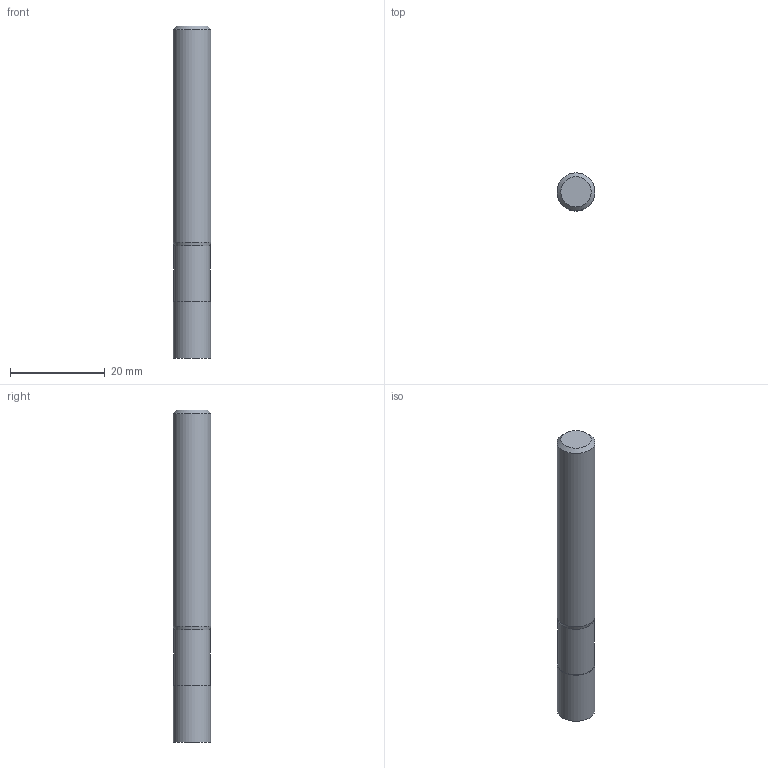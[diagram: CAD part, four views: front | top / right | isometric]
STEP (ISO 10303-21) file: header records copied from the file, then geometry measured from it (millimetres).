
FILE_DESCRIPTION((''),'2;1');
FILE_NAME('C:\Users\nsx150\AppData\Local\Temp\Mastercam 2021\EUJSUNXURU\TEMP.step','2021-04-22T10:29:20',(''),(''),'STEP Write','Mastercam 2021 ... CNC Software, Inc.','');
FILE_SCHEMA(('AUTOMOTIVE_DESIGN'));
Length unit declared in the file: millimetre
Products named in the file (1): None
Bounding box: 8 x 8 x 70 mm (x, y, z)
Volume: 3451.3 mm3; surface area: 1926.7 mm2
Topology: 2 solids, 2 shells, 9 faces, 12 edges, 7 vertices
Faces by surface type: plane 4, cylinder 3, cone 2
Full cylindrical faces by diameter (mm): 7.7 x1, 7.9 x1, 8 x1
Entity records: 211 total; most frequent: DIRECTION 36, CARTESIAN_POINT 25, AXIS2_PLACEMENT_3D 18, ORIENTED_EDGE 14, EDGE_LOOP 14, STYLED_ITEM 12, ADVANCED_FACE 9, FACE_BOUND 8
